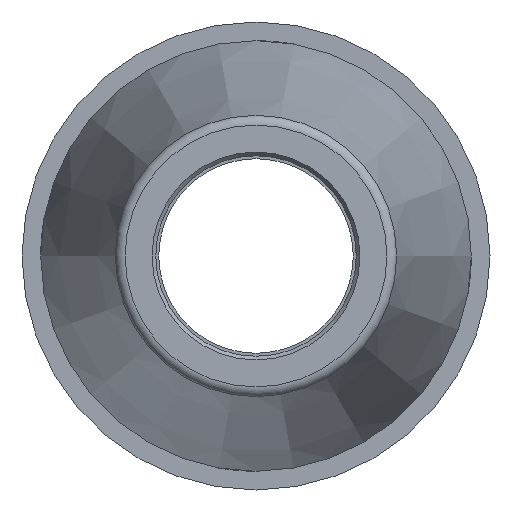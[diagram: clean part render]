
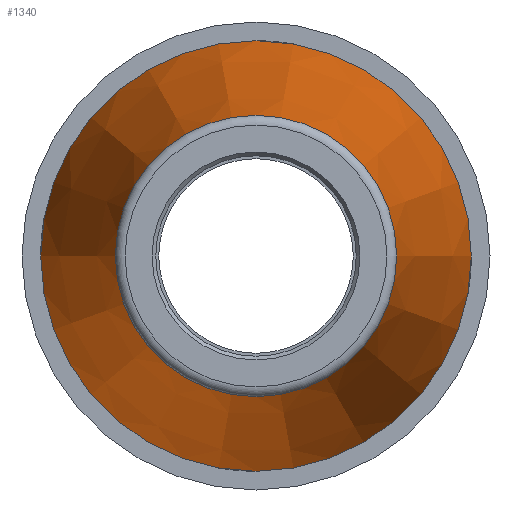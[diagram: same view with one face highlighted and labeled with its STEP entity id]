
A CAD part, left-side view. The second image highlights one B-rep face of the part: STEP entity #1340.
In plain terms, the highlighted conical face has half-angle 12.145 degrees and reference radius 24.98 mm.
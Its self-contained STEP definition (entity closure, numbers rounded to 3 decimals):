
#294=FACE_BOUND('',#418,.T.);
#324=FACE_OUTER_BOUND('',#417,.T.);
#417=EDGE_LOOP('',(#957));
#418=EDGE_LOOP('',(#958));
#527=CIRCLE('',#1436,19.838);
#528=CIRCLE('',#1438,30.36);
#623=VERTEX_POINT('',#2089);
#624=VERTEX_POINT('',#2092);
#759=EDGE_CURVE('',#623,#623,#527,.T.);
#760=EDGE_CURVE('',#624,#624,#528,.T.);
#957=ORIENTED_EDGE('',*,*,#760,.F.);
#958=ORIENTED_EDGE('',*,*,#759,.F.);
#1331=CONICAL_SURFACE('',#1437,24.98,12.145);
#1340=ADVANCED_FACE('',(#324,#294),#1331,.T.);
#1436=AXIS2_PLACEMENT_3D('',#2090,#1635,#1636);
#1437=AXIS2_PLACEMENT_3D('',#2091,#1637,#1638);
#1438=AXIS2_PLACEMENT_3D('',#2093,#1639,#1640);
#1635=DIRECTION('center_axis',(-1.,0.,0.));
#1636=DIRECTION('ref_axis',(0.,-1.,0.));
#1637=DIRECTION('center_axis',(1.,0.,0.));
#1638=DIRECTION('ref_axis',(0.,1.,0.));
#1639=DIRECTION('center_axis',(1.,0.,0.));
#1640=DIRECTION('ref_axis',(0.,0.,-1.));
#2089=CARTESIAN_POINT('',(-98.895,19.838,0.));
#2090=CARTESIAN_POINT('Origin',(-98.895,0.,0.));
#2091=CARTESIAN_POINT('Origin',(-75.,0.,0.));
#2092=CARTESIAN_POINT('',(-50.,30.36,0.));
#2093=CARTESIAN_POINT('Origin',(-50.,0.,0.));
